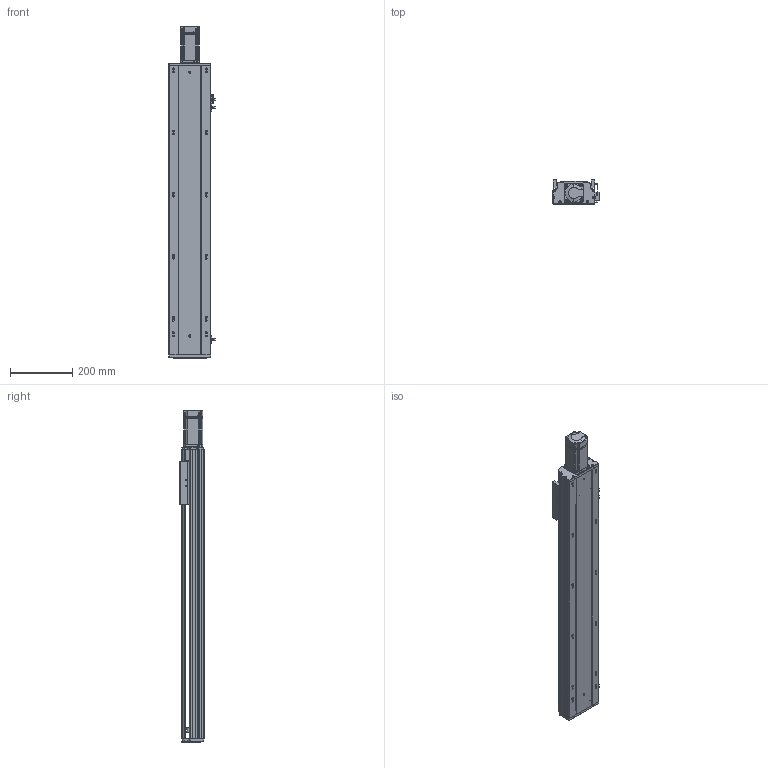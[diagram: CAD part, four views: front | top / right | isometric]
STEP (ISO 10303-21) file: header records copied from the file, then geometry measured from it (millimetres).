
FILE_DESCRIPTION (( 'STEP AP203' ), '1' );
FILE_NAME ('RY140Q-L2010-700-MK.SLDASM_0700.step', '2021-05-27T03:22:14', ( '盈信电脑' ), ( '东莞市道滘镇水果街19号' ), 'SwSTEP 2.0', 'SolidWorks 2016', '' );
FILE_SCHEMA (( 'CONFIG_CONTROL_DESIGN' ));
Length unit declared in the file: millimetre
Products named in the file (14): RY140ヶ裔啣; RY140綴裔啣; RY140Q萇儂傷盓傅釱FK12(80.5酗M5); RY120外置感应片(140共用）; RY140Q-700-MK倰第菁釱_0700; RY140Q-L2010-700-MK.SLDASM_0700; 15; 滅袉蝶18-10; 覜茼ん672; 侂狟400W侜督萇儂; RY140Q臏賑輸(20佪裝-J); 滅袉蝶18-15; 鞠褒坶踡蹟譫BK12 ; RY140Q-700-MK倰第奻裔啣_0700
Assembly tree (16 placements, depth 3):
  RY140Q-L2010-700-MK.SLDASM_0700
    RY140Q-700-MK倰第菁釱_0700
    RY140Q臏賑輸(20佪裝-J)
    RY140Q-700-MK倰第奻裔啣_0700
    RY140ヶ裔啣
    侂狟400W侜督萇儂
      15
    鞠褒坶踡蹟譫BK12 
    RY140綴裔啣
    覜茼ん672  x3
    RY120外置感应片(140共用）
    RY140Q萇儂傷盓傅釱FK12(80.5酗M5)
    滅袉蝶18-10
    滅袉蝶18-15  x2
Bounding box: 148.7 x 78 x 1069.5 mm (x, y, z)
Volume: 3125148.7 mm3; surface area: 1113487.7 mm2
Topology: 15 solids, 15 shells, 2091 faces, 5770 edges, 3695 vertices
Faces by surface type: plane 1086, cylinder 724, cone 196, bspline 85
Entity records: 69113 total; most frequent: CARTESIAN_POINT 16588, ORIENTED_EDGE 10840, DIRECTION 10302, EDGE_CURVE 5420, VERTEX_POINT 3555, LINE 3490, VECTOR 3490, AXIS2_PLACEMENT_3D 3406
